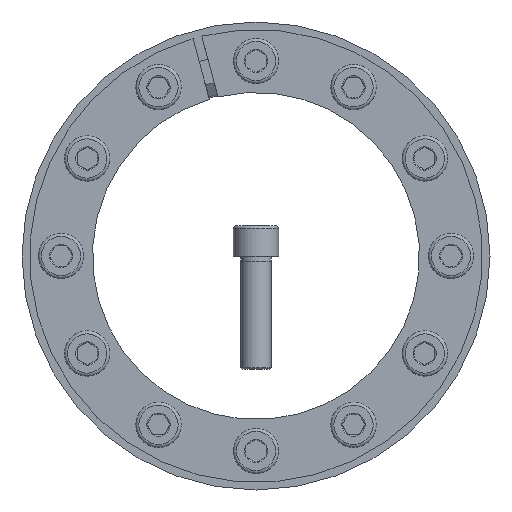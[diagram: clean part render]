
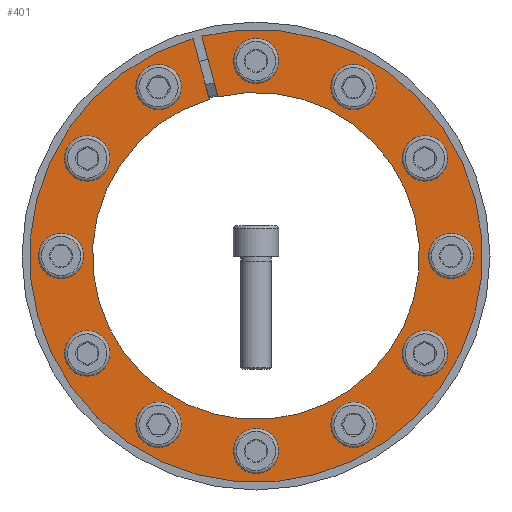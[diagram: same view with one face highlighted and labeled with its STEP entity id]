
A CAD part, front view. The second image highlights one B-rep face of the part: STEP entity #401.
In plain terms, the highlighted planar face has unit normal (0, -1, 0).
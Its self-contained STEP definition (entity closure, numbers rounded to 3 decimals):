
#401 = ADVANCED_FACE( '', ( #622, #623, #624, #625, #626, #627, #628, #629, #630, #631, #632, #633, #634 ), #635, .T. );
#622 = FACE_BOUND( '', #844, .T. );
#623 = FACE_BOUND( '', #845, .T. );
#624 = FACE_BOUND( '', #846, .T. );
#625 = FACE_BOUND( '', #847, .T. );
#626 = FACE_BOUND( '', #848, .T. );
#627 = FACE_BOUND( '', #849, .T. );
#628 = FACE_BOUND( '', #850, .T. );
#629 = FACE_BOUND( '', #851, .T. );
#630 = FACE_BOUND( '', #852, .T. );
#631 = FACE_BOUND( '', #853, .T. );
#632 = FACE_BOUND( '', #854, .T. );
#633 = FACE_BOUND( '', #855, .T. );
#634 = FACE_OUTER_BOUND( '', #856, .T. );
#635 = PLANE( '', #857 );
#844 = EDGE_LOOP( '', ( #1091 ) );
#845 = EDGE_LOOP( '', ( #1092 ) );
#846 = EDGE_LOOP( '', ( #1093 ) );
#847 = EDGE_LOOP( '', ( #1094 ) );
#848 = EDGE_LOOP( '', ( #1095 ) );
#849 = EDGE_LOOP( '', ( #1096 ) );
#850 = EDGE_LOOP( '', ( #1097 ) );
#851 = EDGE_LOOP( '', ( #1098 ) );
#852 = EDGE_LOOP( '', ( #1099 ) );
#853 = EDGE_LOOP( '', ( #1100 ) );
#854 = EDGE_LOOP( '', ( #1101 ) );
#855 = EDGE_LOOP( '', ( #1102 ) );
#856 = EDGE_LOOP( '', ( #1103, #1104, #1105, #1106 ) );
#857 = AXIS2_PLACEMENT_3D( '', #1107, #1108, #1109 );
#1091 = ORIENTED_EDGE( '', *, *, #1615, .T. );
#1092 = ORIENTED_EDGE( '', *, *, #1616, .T. );
#1093 = ORIENTED_EDGE( '', *, *, #1617, .T. );
#1094 = ORIENTED_EDGE( '', *, *, #1618, .T. );
#1095 = ORIENTED_EDGE( '', *, *, #1619, .T. );
#1096 = ORIENTED_EDGE( '', *, *, #1620, .T. );
#1097 = ORIENTED_EDGE( '', *, *, #1621, .T. );
#1098 = ORIENTED_EDGE( '', *, *, #1622, .T. );
#1099 = ORIENTED_EDGE( '', *, *, #1623, .T. );
#1100 = ORIENTED_EDGE( '', *, *, #1624, .T. );
#1101 = ORIENTED_EDGE( '', *, *, #1625, .T. );
#1102 = ORIENTED_EDGE( '', *, *, #1626, .T. );
#1103 = ORIENTED_EDGE( '', *, *, #1627, .T. );
#1104 = ORIENTED_EDGE( '', *, *, #1628, .F. );
#1105 = ORIENTED_EDGE( '', *, *, #1629, .F. );
#1106 = ORIENTED_EDGE( '', *, *, #1630, .T. );
#1107 = CARTESIAN_POINT( '', ( 0., 0., 90. ) );
#1108 = DIRECTION( '', ( 0., -1., 0. ) );
#1109 = DIRECTION( '', ( 0., 0., -1. ) );
#1615 = EDGE_CURVE( '', #1801, #1801, #1802, .T. );
#1616 = EDGE_CURVE( '', #1803, #1803, #1804, .T. );
#1617 = EDGE_CURVE( '', #1805, #1805, #1806, .T. );
#1618 = EDGE_CURVE( '', #1807, #1807, #1808, .T. );
#1619 = EDGE_CURVE( '', #1809, #1809, #1810, .T. );
#1620 = EDGE_CURVE( '', #1811, #1811, #1812, .T. );
#1621 = EDGE_CURVE( '', #1813, #1813, #1814, .T. );
#1622 = EDGE_CURVE( '', #1815, #1815, #1816, .T. );
#1623 = EDGE_CURVE( '', #1817, #1817, #1818, .T. );
#1624 = EDGE_CURVE( '', #1819, #1819, #1820, .T. );
#1625 = EDGE_CURVE( '', #1821, #1821, #1822, .T. );
#1626 = EDGE_CURVE( '', #1823, #1823, #1824, .T. );
#1627 = EDGE_CURVE( '', #1825, #1826, #1827, .T. );
#1628 = EDGE_CURVE( '', #1828, #1826, #1829, .T. );
#1629 = EDGE_CURVE( '', #1830, #1828, #1831, .T. );
#1630 = EDGE_CURVE( '', #1830, #1825, #1832, .T. );
#1801 = VERTEX_POINT( '', #2011 );
#1802 = CIRCLE( '', #2012, 6. );
#1803 = VERTEX_POINT( '', #2013 );
#1804 = CIRCLE( '', #2014, 6. );
#1805 = VERTEX_POINT( '', #2015 );
#1806 = CIRCLE( '', #2016, 6. );
#1807 = VERTEX_POINT( '', #2017 );
#1808 = CIRCLE( '', #2018, 6. );
#1809 = VERTEX_POINT( '', #2019 );
#1810 = CIRCLE( '', #2020, 6. );
#1811 = VERTEX_POINT( '', #2021 );
#1812 = CIRCLE( '', #2022, 6. );
#1813 = VERTEX_POINT( '', #2023 );
#1814 = CIRCLE( '', #2024, 6. );
#1815 = VERTEX_POINT( '', #2025 );
#1816 = CIRCLE( '', #2026, 6. );
#1817 = VERTEX_POINT( '', #2027 );
#1818 = CIRCLE( '', #2028, 6. );
#1819 = VERTEX_POINT( '', #2029 );
#1820 = CIRCLE( '', #2030, 6. );
#1821 = VERTEX_POINT( '', #2031 );
#1822 = CIRCLE( '', #2032, 6. );
#1823 = VERTEX_POINT( '', #2033 );
#1824 = CIRCLE( '', #2034, 6. );
#1825 = VERTEX_POINT( '', #2035 );
#1826 = VERTEX_POINT( '', #2036 );
#1827 = CIRCLE( '', #2037, 90. );
#1828 = VERTEX_POINT( '', #2038 );
#1829 = LINE( '', #2039, #2040 );
#1830 = VERTEX_POINT( '', #2041 );
#1831 = CIRCLE( '', #2042, 65. );
#1832 = LINE( '', #2043, #2044 );
#2011 = CARTESIAN_POINT( '', ( -33.554, 0., 70.117 ) );
#2012 = AXIS2_PLACEMENT_3D( '', #2273, #2274, #2275 );
#2013 = CARTESIAN_POINT( '', ( -77.5, 0., 6. ) );
#2014 = AXIS2_PLACEMENT_3D( '', #2276, #2277, #2278 );
#2015 = CARTESIAN_POINT( '', ( -43.946, 0., -64.117 ) );
#2016 = AXIS2_PLACEMENT_3D( '', #2279, #2280, #2281 );
#2017 = CARTESIAN_POINT( '', ( 33.554, 0., -70.117 ) );
#2018 = AXIS2_PLACEMENT_3D( '', #2282, #2283, #2284 );
#2019 = CARTESIAN_POINT( '', ( 77.5, 0., -6. ) );
#2020 = AXIS2_PLACEMENT_3D( '', #2285, #2286, #2287 );
#2021 = CARTESIAN_POINT( '', ( 43.946, 0., 64.117 ) );
#2022 = AXIS2_PLACEMENT_3D( '', #2288, #2289, #2290 );
#2023 = CARTESIAN_POINT( '', ( 6., 0., 77.5 ) );
#2024 = AXIS2_PLACEMENT_3D( '', #2291, #2292, #2293 );
#2025 = CARTESIAN_POINT( '', ( 70.117, 0., 33.554 ) );
#2026 = AXIS2_PLACEMENT_3D( '', #2294, #2295, #2296 );
#2027 = CARTESIAN_POINT( '', ( 64.117, 0., -43.946 ) );
#2028 = AXIS2_PLACEMENT_3D( '', #2297, #2298, #2299 );
#2029 = CARTESIAN_POINT( '', ( -6., 0., -77.5 ) );
#2030 = AXIS2_PLACEMENT_3D( '', #2300, #2301, #2302 );
#2031 = CARTESIAN_POINT( '', ( -70.117, 0., -33.554 ) );
#2032 = AXIS2_PLACEMENT_3D( '', #2303, #2304, #2305 );
#2033 = CARTESIAN_POINT( '', ( -64.117, 0., 43.946 ) );
#2034 = AXIS2_PLACEMENT_3D( '', #2306, #2307, #2308 );
#2035 = CARTESIAN_POINT( '', ( -25.028, 0., 86.45 ) );
#2036 = CARTESIAN_POINT( '', ( -21.55, 0., 87.382 ) );
#2037 = AXIS2_PLACEMENT_3D( '', #2309, #2310, #2311 );
#2038 = CARTESIAN_POINT( '', ( -15.078, 0., 63.227 ) );
#2039 = CARTESIAN_POINT( '', ( 1.739, 0., 0.466 ) );
#2040 = VECTOR( '', #2312, 1000. );
#2041 = CARTESIAN_POINT( '', ( -18.555, 0., 62.295 ) );
#2042 = AXIS2_PLACEMENT_3D( '', #2313, #2314, #2315 );
#2043 = CARTESIAN_POINT( '', ( -1.739, 0., -0.466 ) );
#2044 = VECTOR( '', #2316, 1000. );
#2273 = CARTESIAN_POINT( '', ( -38.75, 0., 67.117 ) );
#2274 = DIRECTION( '', ( 0., 1., 0. ) );
#2275 = DIRECTION( '', ( 0.866, 0., 0.5 ) );
#2276 = CARTESIAN_POINT( '', ( -77.5, 0., 0. ) );
#2277 = DIRECTION( '', ( 0., 1., 0. ) );
#2278 = DIRECTION( '', ( 0., 0., 1. ) );
#2279 = CARTESIAN_POINT( '', ( -38.75, 0., -67.117 ) );
#2280 = DIRECTION( '', ( 0., 1., 0. ) );
#2281 = DIRECTION( '', ( -0.866, 0., 0.5 ) );
#2282 = CARTESIAN_POINT( '', ( 38.75, 0., -67.117 ) );
#2283 = DIRECTION( '', ( 0., 1., 0. ) );
#2284 = DIRECTION( '', ( -0.866, 0., -0.5 ) );
#2285 = CARTESIAN_POINT( '', ( 77.5, 0., 0. ) );
#2286 = DIRECTION( '', ( 0., 1., 0. ) );
#2287 = DIRECTION( '', ( 0., 0., -1. ) );
#2288 = CARTESIAN_POINT( '', ( 38.75, 0., 67.117 ) );
#2289 = DIRECTION( '', ( 0., 1., 0. ) );
#2290 = DIRECTION( '', ( 0.866, 0., -0.5 ) );
#2291 = CARTESIAN_POINT( '', ( 0., 0., 77.5 ) );
#2292 = DIRECTION( '', ( 0., 1., 0. ) );
#2293 = DIRECTION( '', ( 1., 0., 0. ) );
#2294 = CARTESIAN_POINT( '', ( 67.117, 0., 38.75 ) );
#2295 = DIRECTION( '', ( 0., 1., 0. ) );
#2296 = DIRECTION( '', ( 0.5, 0., -0.866 ) );
#2297 = CARTESIAN_POINT( '', ( 67.117, 0., -38.75 ) );
#2298 = DIRECTION( '', ( 0., 1., 0. ) );
#2299 = DIRECTION( '', ( -0.5, 0., -0.866 ) );
#2300 = CARTESIAN_POINT( '', ( 0., 0., -77.5 ) );
#2301 = DIRECTION( '', ( 0., 1., 0. ) );
#2302 = DIRECTION( '', ( -1., 0., 0. ) );
#2303 = CARTESIAN_POINT( '', ( -67.117, 0., -38.75 ) );
#2304 = DIRECTION( '', ( 0., 1., 0. ) );
#2305 = DIRECTION( '', ( -0.5, 0., 0.866 ) );
#2306 = CARTESIAN_POINT( '', ( -67.117, 0., 38.75 ) );
#2307 = DIRECTION( '', ( 0., 1., 0. ) );
#2308 = DIRECTION( '', ( 0.5, 0., 0.866 ) );
#2309 = CARTESIAN_POINT( '', ( 0., 0., 0. ) );
#2310 = DIRECTION( '', ( 0., -1., 0. ) );
#2311 = DIRECTION( '', ( 0., 0., -1. ) );
#2312 = DIRECTION( '', ( -0.259, 0., 0.966 ) );
#2313 = CARTESIAN_POINT( '', ( 0., 0., 0. ) );
#2314 = DIRECTION( '', ( 0., -1., 0. ) );
#2315 = DIRECTION( '', ( 0., 0., -1. ) );
#2316 = DIRECTION( '', ( -0.259, 0., 0.966 ) );
